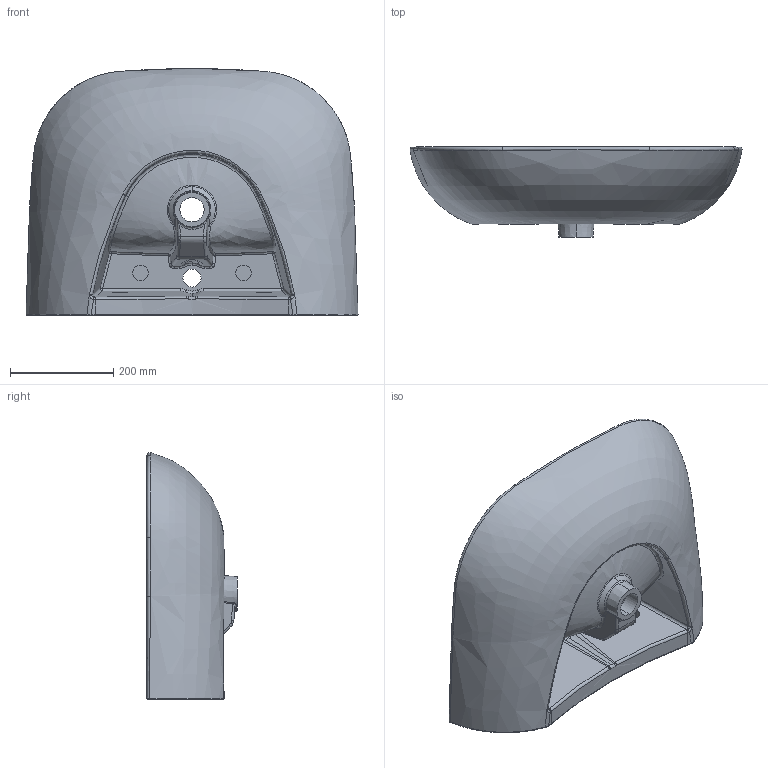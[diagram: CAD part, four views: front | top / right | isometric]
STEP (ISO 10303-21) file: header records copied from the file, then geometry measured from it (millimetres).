
FILE_DESCRIPTION (( 'STEP AP203' ), '1' );
FILE_NAME ('PALP06448T0M.STEP', '2019-05-27T09:30:24', ( '' ), ( '' ), 'SwSTEP 2.0', 'SolidWorks 2019', '' );
FILE_SCHEMA (( 'CONFIG_CONTROL_DESIGN' ));
Length unit declared in the file: millimetre
Products named in the file (1): PALP06448T0M
Bounding box: 643.46 x 175 x 478.65 mm (x, y, z)
Volume: 15232851.1 mm3; surface area: 947749.8 mm2
Topology: 1 solids, 1 shells, 170 faces, 413 edges, 245 vertices
Faces by surface type: bspline 87, cylinder 34, plane 19, sphere 12, torus 9, cone 9
Entity records: 39966 total; most frequent: CARTESIAN_POINT 36562, ORIENTED_EDGE 822, DIRECTION 545, EDGE_CURVE 411, VERTEX_POINT 245, AXIS2_PLACEMENT_3D 238, EDGE_LOOP 180, ADVANCED_FACE 170
